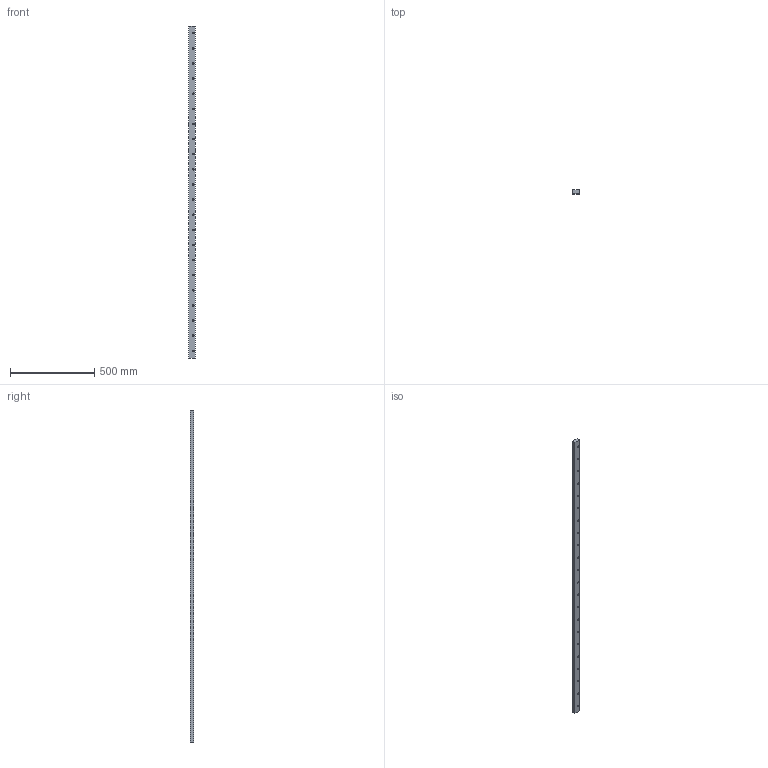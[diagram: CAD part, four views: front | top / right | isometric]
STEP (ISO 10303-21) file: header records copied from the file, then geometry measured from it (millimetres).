
FILE_DESCRIPTION(('STEP AP203'),'1');
FILE_NAME('track_ft4020l1976p2b.stp','2022-07-04T01:40:49',('TraceParts'),('TraceParts S.A.'),'Spatial InterOp 3D',' ',' ');
FILE_SCHEMA(('CONFIG_CONTROL_DESIGN'));
Length unit declared in the file: millimetre
Products named in the file (1): 1
Bounding box: 40 x 20.4 x 1976 mm (x, y, z)
Volume: 1562536.7 mm3; surface area: 250761.2 mm2
Topology: 1 solids, 1 shells, 120 faces, 288 edges, 192 vertices
Faces by surface type: cylinder 88, plane 32
Entity records: 3720 total; most frequent: DIRECTION 706, CARTESIAN_POINT 601, ORIENTED_EDGE 576, AXIS2_PLACEMENT_3D 297, EDGE_CURVE 288, VERTEX_POINT 192, EDGE_LOOP 186, CIRCLE 176
